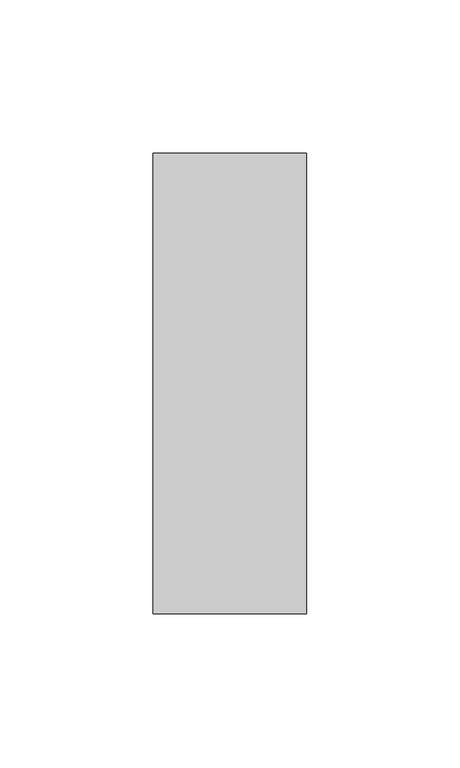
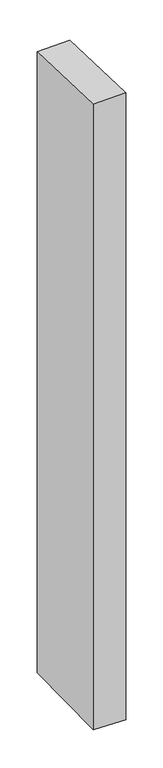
"""IFC4 building model written with IfcOpenShell, lengths in millimetres: member geometry, Прямоугольный импост : 50 x 150 мм."""

from ifc_helpers import new_model, si_unit, origin, place, context, project, spatial, faceted_brep, source, transform, mapped, element, save


def member_ff879124(model_context):
    return source(origin(), model_context, "Body", "Brep", [
        faceted_brep([(-25.0, 75.0, -3.207767), (25.0, 75.0, -1.9195754), (25.0, 75.0, -1020.5611455), (-25.0, 75.0, -1019.1398086), (-25.0, -75.0, 1.9195754), (-25.0, -75.0, -1021.3258748), (25.0, -75.0, 3.207767), (25.0, -75.0, -1022.7472117)], [[[0, 1, 2, 3]], [[4, 0, 3, 5]], [[6, 4, 5, 7]], [[1, 6, 7, 2]], [[1, 0, 4, 6]], [[2, 7, 5, 3]]]),
    ])


if __name__ == "__main__":
    model = new_model("IFC4")
    model_context = context("Model", 3, world=origin())
    ifc_project = project(units=[si_unit("LENGTHUNIT", "METRE", prefix="MILLI")], contexts=[model_context])
    site = spatial("IfcSite", under=ifc_project)
    building = spatial("IfcBuilding", under=site)
    placement = place(None, origin())
    member_shape = member_ff879124(model_context)
    element("IfcMember", 1, ObjectType="Прямоугольный импост : 50 x 150 мм", at=placement, inside=building, context=model_context, shape_type="MappedRepresentation", body=[
        mapped(member_shape, transform((0.0, 0.0, 0.0), x_axis=(1.0, 0.0, 0.0), y_axis=(0.0, 1.0, 0.0), z_axis=(0.0, 0.0, 1.0))),
    ])
    save(model, "model.ifc")
